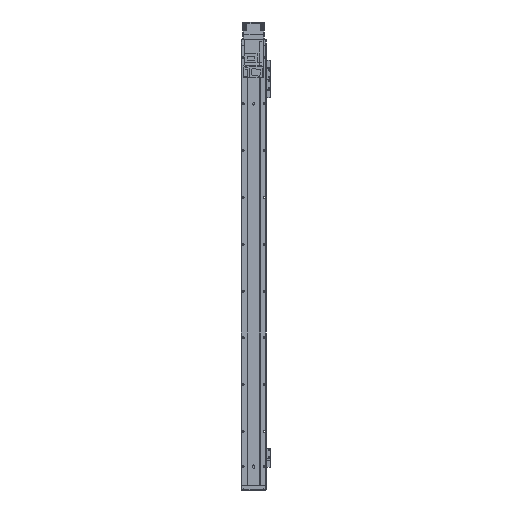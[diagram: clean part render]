
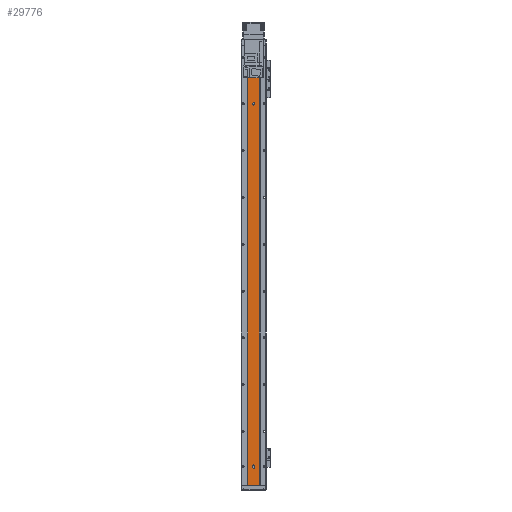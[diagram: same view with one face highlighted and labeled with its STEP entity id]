
A CAD part, front view. The second image highlights one B-rep face of the part: STEP entity #29776.
In plain terms, the highlighted planar face has unit normal (0, -1, 0).
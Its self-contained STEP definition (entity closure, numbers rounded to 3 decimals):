
#397 = ORIENTED_EDGE ( 'NONE', *, *, #26590, .F. ) ;
#898 = DIRECTION ( 'NONE',  ( 0., -1., 0. ) ) ;
#1491 = CARTESIAN_POINT ( 'NONE',  ( 12.293, 1.5, 0. ) ) ;
#1670 = VECTOR ( 'NONE', #13891, 1000. ) ;
#2221 = CARTESIAN_POINT ( 'NONE',  ( 2.5, 1.5, -901. ) ) ;
#2277 = ORIENTED_EDGE ( 'NONE', *, *, #16257, .F. ) ;
#2483 = EDGE_CURVE ( 'NONE', #38451, #19290, #19430, .T. ) ;
#2724 = AXIS2_PLACEMENT_3D ( 'NONE', #7221, #19449, #31580 ) ;
#3072 = DIRECTION ( 'NONE',  ( 0., -1., 0. ) ) ;
#3529 = DIRECTION ( 'NONE',  ( 0., -1., 0. ) ) ;
#3671 = CIRCLE ( 'NONE', #6652, 2.5 ) ;
#5297 = VERTEX_POINT ( 'NONE', #16360 ) ;
#5477 = DIRECTION ( 'NONE',  ( 1., 0., 0. ) ) ;
#5636 = AXIS2_PLACEMENT_3D ( 'NONE', #11328, #39093, #14268 ) ;
#6143 = VECTOR ( 'NONE', #35173, 1000. ) ;
#6168 = AXIS2_PLACEMENT_3D ( 'NONE', #33190, #3072, #11696 ) ;
#6515 = CARTESIAN_POINT ( 'NONE',  ( 2.5, 1.5, -899. ) ) ;
#6523 = EDGE_LOOP ( 'NONE', ( #25081, #397 ) ) ;
#6652 = AXIS2_PLACEMENT_3D ( 'NONE', #35774, #11413, #5477 ) ;
#6882 = FACE_BOUND ( 'NONE', #6523, .T. ) ;
#7006 = CARTESIAN_POINT ( 'NONE',  ( 0., 1.5, -901. ) ) ;
#7093 = EDGE_LOOP ( 'NONE', ( #28463, #21487 ) ) ;
#7221 = CARTESIAN_POINT ( 'NONE',  ( 0., 1.5, -125. ) ) ;
#8557 = EDGE_CURVE ( 'NONE', #26941, #5297, #29274, .T. ) ;
#8782 = VERTEX_POINT ( 'NONE', #2221 ) ;
#9056 = CIRCLE ( 'NONE', #6168, 2.5 ) ;
#9224 = ORIENTED_EDGE ( 'NONE', *, *, #18031, .F. ) ;
#10230 = VECTOR ( 'NONE', #20837, 1000. ) ;
#10278 = CARTESIAN_POINT ( 'NONE',  ( -12.293, 1.5, -940. ) ) ;
#10313 = VECTOR ( 'NONE', #18746, 1000. ) ;
#10785 = LINE ( 'NONE', #1491, #29546 ) ;
#11328 = CARTESIAN_POINT ( 'NONE',  ( 0., 1.5, -25. ) ) ;
#11355 = CARTESIAN_POINT ( 'NONE',  ( -12.293, 1.5, -940. ) ) ;
#11413 = DIRECTION ( 'NONE',  ( 0., -1., 0. ) ) ;
#11696 = DIRECTION ( 'NONE',  ( 1., 0., 0. ) ) ;
#11991 = VERTEX_POINT ( 'NONE', #13769 ) ;
#12330 = EDGE_CURVE ( 'NONE', #36876, #8782, #31455, .T. ) ;
#12598 = CARTESIAN_POINT ( 'NONE',  ( 12.293, 1.5, -940. ) ) ;
#12690 = FACE_BOUND ( 'NONE', #14028, .T. ) ;
#13013 = CARTESIAN_POINT ( 'NONE',  ( 12.293, 1.5, -940. ) ) ;
#13769 = CARTESIAN_POINT ( 'NONE',  ( -2.5, 1.5, -899. ) ) ;
#13886 = AXIS2_PLACEMENT_3D ( 'NONE', #7006, #3529, #28537 ) ;
#13891 = DIRECTION ( 'NONE',  ( 0., 0., 1. ) ) ;
#13982 = CARTESIAN_POINT ( 'NONE',  ( -2.5, 1.5, -25. ) ) ;
#14028 = EDGE_LOOP ( 'NONE', ( #36306, #2277, #9224, #25175 ) ) ;
#14057 = EDGE_LOOP ( 'NONE', ( #39341, #27892, #20087, #37421 ) ) ;
#14259 = EDGE_CURVE ( 'NONE', #8782, #34241, #28973, .T. ) ;
#14268 = DIRECTION ( 'NONE',  ( 1., 0., 0. ) ) ;
#16230 = LINE ( 'NONE', #17271, #6143 ) ;
#16257 = EDGE_CURVE ( 'NONE', #11991, #36876, #16230, .T. ) ;
#16360 = CARTESIAN_POINT ( 'NONE',  ( -2.5, 1.5, -125. ) ) ;
#17271 = CARTESIAN_POINT ( 'NONE',  ( -2.5, 1.5, -940. ) ) ;
#18031 = EDGE_CURVE ( 'NONE', #34241, #11991, #9056, .T. ) ;
#18746 = DIRECTION ( 'NONE',  ( 1., 0., 0. ) ) ;
#19290 = VERTEX_POINT ( 'NONE', #37985 ) ;
#19430 = LINE ( 'NONE', #12598, #10313 ) ;
#19449 = DIRECTION ( 'NONE',  ( 0., -1., 0. ) ) ;
#19739 = EDGE_CURVE ( 'NONE', #5297, #26941, #35764, .T. ) ;
#20087 = ORIENTED_EDGE ( 'NONE', *, *, #2483, .T. ) ;
#20333 = EDGE_CURVE ( 'NONE', #30661, #31565, #10785, .T. ) ;
#20837 = DIRECTION ( 'NONE',  ( 0., 0., 1. ) ) ;
#20863 = FACE_OUTER_BOUND ( 'NONE', #14057, .T. ) ;
#21047 = CARTESIAN_POINT ( 'NONE',  ( 12.293, 1.5, 0. ) ) ;
#21487 = ORIENTED_EDGE ( 'NONE', *, *, #19739, .F. ) ;
#22685 = DIRECTION ( 'NONE',  ( 0., 0., 1. ) ) ;
#23111 = CARTESIAN_POINT ( 'NONE',  ( 2.5, 1.5, -25. ) ) ;
#23132 = DIRECTION ( 'NONE',  ( 1., 0., 0. ) ) ;
#23234 = CARTESIAN_POINT ( 'NONE',  ( 2.5, 1.5, -125. ) ) ;
#23464 = PLANE ( 'NONE',  #29736 ) ;
#23722 = CARTESIAN_POINT ( 'NONE',  ( 12.293, 1.5, -940. ) ) ;
#25081 = ORIENTED_EDGE ( 'NONE', *, *, #33585, .F. ) ;
#25175 = ORIENTED_EDGE ( 'NONE', *, *, #14259, .F. ) ;
#25652 = CARTESIAN_POINT ( 'NONE',  ( 0., 1.5, -125. ) ) ;
#25932 = VECTOR ( 'NONE', #22685, 1000. ) ;
#25958 = CARTESIAN_POINT ( 'NONE',  ( -12.293, 1.5, 0. ) ) ;
#26590 = EDGE_CURVE ( 'NONE', #37464, #39252, #3671, .T. ) ;
#26605 = FACE_BOUND ( 'NONE', #7093, .T. ) ;
#26941 = VERTEX_POINT ( 'NONE', #23234 ) ;
#27472 = EDGE_CURVE ( 'NONE', #38451, #30661, #30035, .T. ) ;
#27892 = ORIENTED_EDGE ( 'NONE', *, *, #27472, .F. ) ;
#28154 = CIRCLE ( 'NONE', #5636, 2.5 ) ;
#28321 = LINE ( 'NONE', #13013, #25932 ) ;
#28337 = DIRECTION ( 'NONE',  ( 1., 0., 0. ) ) ;
#28463 = ORIENTED_EDGE ( 'NONE', *, *, #8557, .F. ) ;
#28537 = DIRECTION ( 'NONE',  ( 1., 0., 0. ) ) ;
#28973 = LINE ( 'NONE', #36198, #10230 ) ;
#29274 = CIRCLE ( 'NONE', #35324, 2.5 ) ;
#29546 = VECTOR ( 'NONE', #23132, 1000. ) ;
#29736 = AXIS2_PLACEMENT_3D ( 'NONE', #23722, #32996, #30056 ) ;
#29776 = ADVANCED_FACE ( 'NONE', ( #12690, #26605, #6882, #20863 ), #23464, .T. ) ;
#30035 = LINE ( 'NONE', #10278, #1670 ) ;
#30056 = DIRECTION ( 'NONE',  ( 1., 0., 0. ) ) ;
#30661 = VERTEX_POINT ( 'NONE', #25958 ) ;
#31248 = EDGE_CURVE ( 'NONE', #19290, #31565, #28321, .T. ) ;
#31455 = CIRCLE ( 'NONE', #13886, 2.5 ) ;
#31565 = VERTEX_POINT ( 'NONE', #21047 ) ;
#31580 = DIRECTION ( 'NONE',  ( 1., 0., 0. ) ) ;
#32198 = CARTESIAN_POINT ( 'NONE',  ( -2.5, 1.5, -901. ) ) ;
#32996 = DIRECTION ( 'NONE',  ( 0., -1., 0. ) ) ;
#33190 = CARTESIAN_POINT ( 'NONE',  ( 0., 1.5, -899. ) ) ;
#33585 = EDGE_CURVE ( 'NONE', #39252, #37464, #28154, .T. ) ;
#34241 = VERTEX_POINT ( 'NONE', #6515 ) ;
#35173 = DIRECTION ( 'NONE',  ( 0., 0., -1. ) ) ;
#35324 = AXIS2_PLACEMENT_3D ( 'NONE', #25652, #898, #28337 ) ;
#35764 = CIRCLE ( 'NONE', #2724, 2.5 ) ;
#35774 = CARTESIAN_POINT ( 'NONE',  ( 0., 1.5, -25. ) ) ;
#36198 = CARTESIAN_POINT ( 'NONE',  ( 2.5, 1.5, -940. ) ) ;
#36306 = ORIENTED_EDGE ( 'NONE', *, *, #12330, .F. ) ;
#36876 = VERTEX_POINT ( 'NONE', #32198 ) ;
#37421 = ORIENTED_EDGE ( 'NONE', *, *, #31248, .T. ) ;
#37464 = VERTEX_POINT ( 'NONE', #13982 ) ;
#37985 = CARTESIAN_POINT ( 'NONE',  ( 12.293, 1.5, -940. ) ) ;
#38451 = VERTEX_POINT ( 'NONE', #11355 ) ;
#39093 = DIRECTION ( 'NONE',  ( 0., -1., 0. ) ) ;
#39252 = VERTEX_POINT ( 'NONE', #23111 ) ;
#39341 = ORIENTED_EDGE ( 'NONE', *, *, #20333, .F. ) ;
